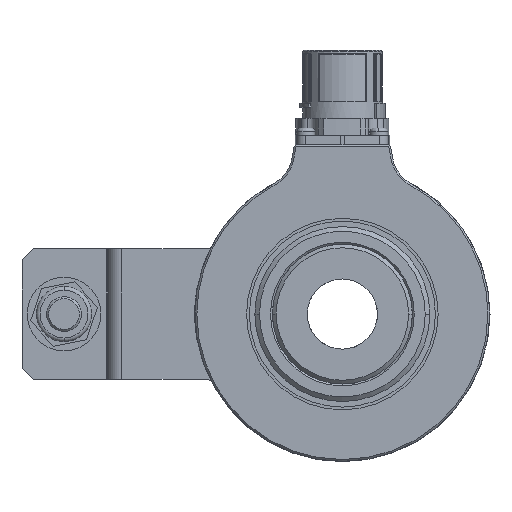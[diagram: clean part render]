
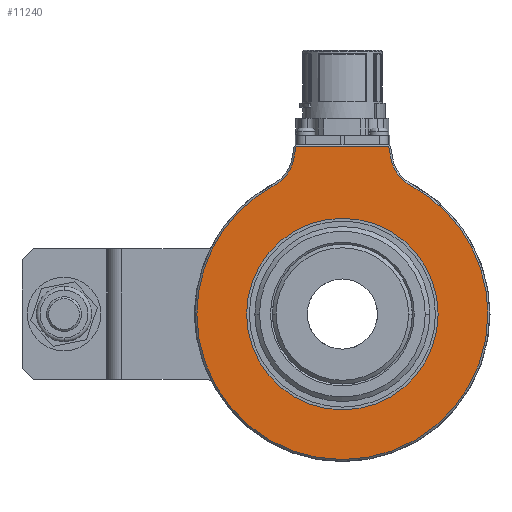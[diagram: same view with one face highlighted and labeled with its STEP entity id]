
A CAD part, left-side view. The second image highlights one B-rep face of the part: STEP entity #11240.
In plain terms, the highlighted planar face has unit normal (-1, 0, 0).
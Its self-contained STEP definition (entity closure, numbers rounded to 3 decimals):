
#906 = CARTESIAN_POINT ( 'NONE',  ( -26., 23.482, 44.143 ) ) ;
#1779 = LINE ( 'NONE', #10794, #31463 ) ;
#2331 = EDGE_CURVE ( 'NONE', #25479, #14330, #30422, .T. ) ;
#2401 = DIRECTION ( 'NONE',  ( 1., 0., 0. ) ) ;
#2407 = CARTESIAN_POINT ( 'NONE',  ( -26., 0., 0. ) ) ;
#2539 = FACE_BOUND ( 'NONE', #13512, .T. ) ;
#2576 = DIRECTION ( 'NONE',  ( 0., 1., 0. ) ) ;
#3447 = ORIENTED_EDGE ( 'NONE', *, *, #2331, .T. ) ;
#3619 = CARTESIAN_POINT ( 'NONE',  ( -26., -18.551, 34.873 ) ) ;
#3641 = CIRCLE ( 'NONE', #22209, 26. ) ;
#3847 = CARTESIAN_POINT ( 'NONE',  ( -26., 26., 0. ) ) ;
#4583 = CARTESIAN_POINT ( 'NONE',  ( -26., 0., 0. ) ) ;
#4743 = DIRECTION ( 'NONE',  ( -1., 0., 0. ) ) ;
#5694 = CIRCLE ( 'NONE', #34064, 39.5 ) ;
#6730 = VERTEX_POINT ( 'NONE', #31720 ) ;
#7262 = DIRECTION ( 'NONE',  ( 0., -1., 0. ) ) ;
#7536 = DIRECTION ( 'NONE',  ( 0., 0.174, 0.985 ) ) ;
#8185 = CIRCLE ( 'NONE', #31367, 10.5 ) ;
#8450 = DIRECTION ( 'NONE',  ( 0., -1., 0. ) ) ;
#8478 = DIRECTION ( 'NONE',  ( -1., 0., 0. ) ) ;
#8856 = DIRECTION ( 'NONE',  ( 0., 0.174, -0.985 ) ) ;
#8875 = EDGE_CURVE ( 'NONE', #9999, #18817, #33417, .T. ) ;
#8941 = ORIENTED_EDGE ( 'NONE', *, *, #32650, .T. ) ;
#9816 = CIRCLE ( 'NONE', #18568, 10.5 ) ;
#9999 = VERTEX_POINT ( 'NONE', #35023 ) ;
#10794 = CARTESIAN_POINT ( 'NONE',  ( -26., -18.776, 10.364 ) ) ;
#11240 = ADVANCED_FACE ( 'NONE', ( #29909, #2539 ), #13386, .T. ) ;
#12257 = CARTESIAN_POINT ( 'NONE',  ( -26., -13.141, 42.32 ) ) ;
#12398 = EDGE_LOOP ( 'NONE', ( #8941, #24083, #21154, #28181, #29711, #25881, #3447, #15869 ) ) ;
#12918 = DIRECTION ( 'NONE',  ( 0., -1., 0. ) ) ;
#13386 = PLANE ( 'NONE',  #16670 ) ;
#13512 = EDGE_LOOP ( 'NONE', ( #23040, #22249 ) ) ;
#13965 = CIRCLE ( 'NONE', #20932, 26. ) ;
#14001 = DIRECTION ( 'NONE',  ( 0., 1., 0. ) ) ;
#14072 = CARTESIAN_POINT ( 'NONE',  ( -26., 0., 0. ) ) ;
#14293 = LINE ( 'NONE', #25399, #16853 ) ;
#14330 = VERTEX_POINT ( 'NONE', #3619 ) ;
#14627 = CARTESIAN_POINT ( 'NONE',  ( -26., -26., 0. ) ) ;
#14812 = DIRECTION ( 'NONE',  ( 0., -1., 0. ) ) ;
#15267 = DIRECTION ( 'NONE',  ( 0., -1., 0. ) ) ;
#15632 = DIRECTION ( 'NONE',  ( -1., 0., 0. ) ) ;
#15869 = ORIENTED_EDGE ( 'NONE', *, *, #27486, .T. ) ;
#16076 = CARTESIAN_POINT ( 'NONE',  ( -26., 12.58, 45.5 ) ) ;
#16507 = CARTESIAN_POINT ( 'NONE',  ( -26., 18.551, 34.873 ) ) ;
#16670 = AXIS2_PLACEMENT_3D ( 'NONE', #24492, #8478, #21596 ) ;
#16851 = DIRECTION ( 'NONE',  ( 1., 0., 0. ) ) ;
#16853 = VECTOR ( 'NONE', #8856, 1000. ) ;
#17532 = VERTEX_POINT ( 'NONE', #3847 ) ;
#18551 = VERTEX_POINT ( 'NONE', #16507 ) ;
#18568 = AXIS2_PLACEMENT_3D ( 'NONE', #27105, #32173, #12918 ) ;
#18817 = VERTEX_POINT ( 'NONE', #16076 ) ;
#18846 = VERTEX_POINT ( 'NONE', #35306 ) ;
#19317 = CARTESIAN_POINT ( 'NONE',  ( -26., 40., 45.5 ) ) ;
#20252 = VERTEX_POINT ( 'NONE', #12257 ) ;
#20932 = AXIS2_PLACEMENT_3D ( 'NONE', #24174, #2401, #2576 ) ;
#21071 = EDGE_CURVE ( 'NONE', #18817, #6730, #14293, .T. ) ;
#21154 = ORIENTED_EDGE ( 'NONE', *, *, #21071, .T. ) ;
#21596 = DIRECTION ( 'NONE',  ( 0., -1., 0. ) ) ;
#21679 = CIRCLE ( 'NONE', #34380, 39.5 ) ;
#22133 = CARTESIAN_POINT ( 'NONE',  ( -26., 0., 0. ) ) ;
#22209 = AXIS2_PLACEMENT_3D ( 'NONE', #22133, #16851, #28264 ) ;
#22249 = ORIENTED_EDGE ( 'NONE', *, *, #32421, .T. ) ;
#23040 = ORIENTED_EDGE ( 'NONE', *, *, #28401, .T. ) ;
#24083 = ORIENTED_EDGE ( 'NONE', *, *, #8875, .T. ) ;
#24125 = EDGE_CURVE ( 'NONE', #18846, #25479, #21679, .T. ) ;
#24174 = CARTESIAN_POINT ( 'NONE',  ( -26., 0., 0. ) ) ;
#24492 = CARTESIAN_POINT ( 'NONE',  ( -26., 40., 0. ) ) ;
#25399 = CARTESIAN_POINT ( 'NONE',  ( -26., 21.188, -3.317 ) ) ;
#25472 = EDGE_CURVE ( 'NONE', #18551, #18846, #5694, .T. ) ;
#25479 = VERTEX_POINT ( 'NONE', #27544 ) ;
#25881 = ORIENTED_EDGE ( 'NONE', *, *, #24125, .T. ) ;
#27105 = CARTESIAN_POINT ( 'NONE',  ( -26., -23.482, 44.143 ) ) ;
#27486 = EDGE_CURVE ( 'NONE', #14330, #20252, #9816, .T. ) ;
#27544 = CARTESIAN_POINT ( 'NONE',  ( -26., -39.5, 0. ) ) ;
#28181 = ORIENTED_EDGE ( 'NONE', *, *, #30612, .T. ) ;
#28264 = DIRECTION ( 'NONE',  ( 0., 1., 0. ) ) ;
#28401 = EDGE_CURVE ( 'NONE', #17532, #32523, #13965, .T. ) ;
#28684 = AXIS2_PLACEMENT_3D ( 'NONE', #2407, #4743, #7262 ) ;
#29711 = ORIENTED_EDGE ( 'NONE', *, *, #25472, .T. ) ;
#29909 = FACE_OUTER_BOUND ( 'NONE', #12398, .T. ) ;
#30422 = CIRCLE ( 'NONE', #28684, 39.5 ) ;
#30612 = EDGE_CURVE ( 'NONE', #6730, #18551, #8185, .T. ) ;
#30681 = VECTOR ( 'NONE', #14001, 1000. ) ;
#31340 = DIRECTION ( 'NONE',  ( 1., 0., 0. ) ) ;
#31367 = AXIS2_PLACEMENT_3D ( 'NONE', #906, #31340, #14812 ) ;
#31463 = VECTOR ( 'NONE', #7536, 1000. ) ;
#31720 = CARTESIAN_POINT ( 'NONE',  ( -26., 13.141, 42.32 ) ) ;
#32173 = DIRECTION ( 'NONE',  ( 1., 0., 0. ) ) ;
#32421 = EDGE_CURVE ( 'NONE', #32523, #17532, #3641, .T. ) ;
#32523 = VERTEX_POINT ( 'NONE', #14627 ) ;
#32650 = EDGE_CURVE ( 'NONE', #20252, #9999, #1779, .T. ) ;
#33322 = DIRECTION ( 'NONE',  ( -1., 0., 0. ) ) ;
#33417 = LINE ( 'NONE', #19317, #30681 ) ;
#34064 = AXIS2_PLACEMENT_3D ( 'NONE', #14072, #33322, #8450 ) ;
#34380 = AXIS2_PLACEMENT_3D ( 'NONE', #4583, #15632, #15267 ) ;
#35023 = CARTESIAN_POINT ( 'NONE',  ( -26., -12.58, 45.5 ) ) ;
#35306 = CARTESIAN_POINT ( 'NONE',  ( -26., 39.5, 0. ) ) ;
